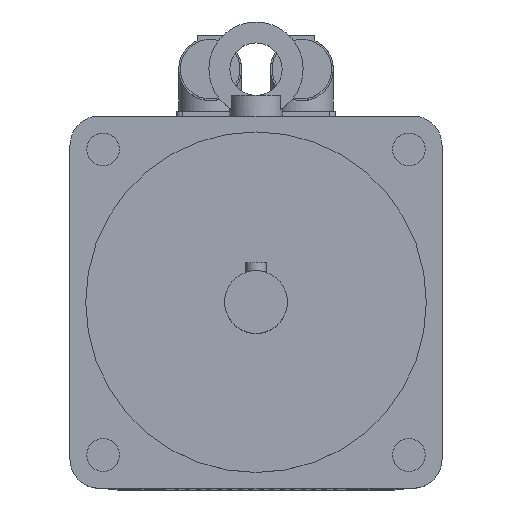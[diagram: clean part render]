
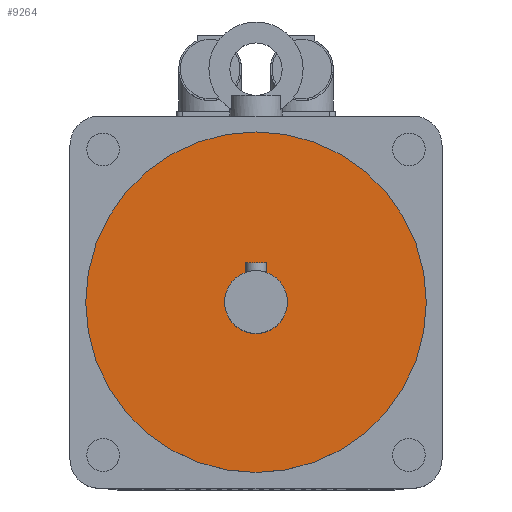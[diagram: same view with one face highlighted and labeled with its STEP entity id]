
A CAD part, top view. The second image highlights one B-rep face of the part: STEP entity #9264.
In plain terms, the highlighted planar face has unit normal (0, 0, 1).
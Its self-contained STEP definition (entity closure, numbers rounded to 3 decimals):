
#107=FACE_BOUND('',#909,.T.);
#283=FACE_OUTER_BOUND('',#908,.T.);
#908=EDGE_LOOP('',(#6623));
#909=EDGE_LOOP('',(#6624));
#1470=CIRCLE('',#9861,12.);
#1471=CIRCLE('',#9863,65.);
#4215=VERTEX_POINT('',#14403);
#4216=VERTEX_POINT('',#14406);
#5156=EDGE_CURVE('',#4215,#4215,#1470,.T.);
#5157=EDGE_CURVE('',#4216,#4216,#1471,.T.);
#6623=ORIENTED_EDGE('',*,*,#5157,.F.);
#6624=ORIENTED_EDGE('',*,*,#5156,.T.);
#8816=PLANE('',#9862);
#9264=ADVANCED_FACE('',(#283,#107),#8816,.T.);
#9861=AXIS2_PLACEMENT_3D('',#14404,#11242,#11243);
#9862=AXIS2_PLACEMENT_3D('',#14405,#11244,#11245);
#9863=AXIS2_PLACEMENT_3D('',#14407,#11246,#11247);
#11242=DIRECTION('center_axis',(0.,0.,-1.));
#11243=DIRECTION('ref_axis',(1.,0.,0.));
#11244=DIRECTION('center_axis',(0.,0.,1.));
#11245=DIRECTION('ref_axis',(1.,0.,0.));
#11246=DIRECTION('center_axis',(0.,0.,-1.));
#11247=DIRECTION('ref_axis',(1.,0.,0.));
#14403=CARTESIAN_POINT('',(0.,12.,347.));
#14404=CARTESIAN_POINT('Origin',(0.,0.,347.));
#14405=CARTESIAN_POINT('Origin',(0.,65.,347.));
#14406=CARTESIAN_POINT('',(0.,65.,347.));
#14407=CARTESIAN_POINT('Origin',(0.,0.,347.));
